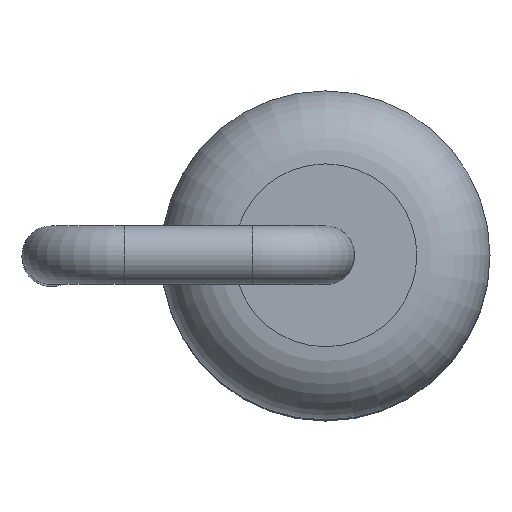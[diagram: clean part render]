
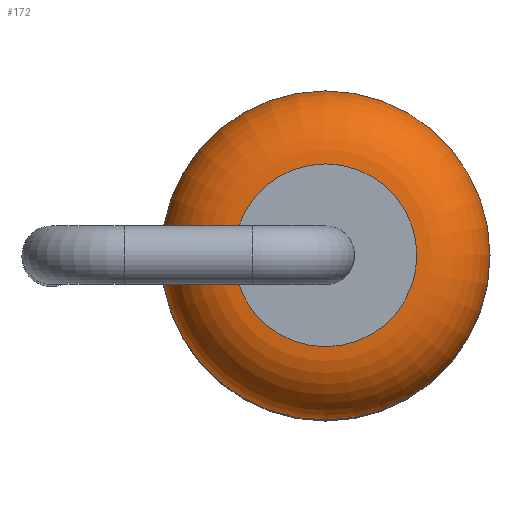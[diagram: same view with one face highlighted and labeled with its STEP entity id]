
A CAD part, top view. The second image highlights one B-rep face of the part: STEP entity #172.
In plain terms, the highlighted toroidal (fillet/blend) face has major radius 1.25 mm and minor radius 1 mm.
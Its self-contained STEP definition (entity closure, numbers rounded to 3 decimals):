
#172=ADVANCED_FACE('',(#341,#343),#345,.T.);
#341=FACE_OUTER_BOUND('',#342,.T.);
#342=EDGE_LOOP('',(#460));
#343=FACE_OUTER_BOUND('',#344,.T.);
#344=EDGE_LOOP('',(#461));
#345=TOROIDAL_SURFACE('',#346,1.25,1.);
#346=AXIS2_PLACEMENT_3D('',#347,#348,#349);
#347=CARTESIAN_POINT('',(0.,0.,-4.5));
#348=DIRECTION('',(0.,0.,-1.));
#349=DIRECTION('',(-1.,0.,0.));
#460=ORIENTED_EDGE('',*,*,#489,.F.);
#461=ORIENTED_EDGE('',*,*,#490,.T.);
#489=EDGE_CURVE('',#513,#513,#514,.T.);
#490=EDGE_CURVE('',#515,#515,#516,.T.);
#513=VERTEX_POINT('',#567);
#514=CIRCLE('',#568,1.25);
#515=VERTEX_POINT('',#572);
#516=CIRCLE('',#573,2.25);
#567=CARTESIAN_POINT('',(-1.25,0.,-5.5));
#568=AXIS2_PLACEMENT_3D('',#569,#570,#571);
#569=CARTESIAN_POINT('',(0.,0.,-5.5));
#570=DIRECTION('',(0.,0.,-1.));
#571=DIRECTION('',(-1.,0.,0.));
#572=CARTESIAN_POINT('',(-2.25,0.,-4.5));
#573=AXIS2_PLACEMENT_3D('',#574,#575,#576);
#574=CARTESIAN_POINT('',(0.,0.,-4.5));
#575=DIRECTION('',(0.,0.,-1.));
#576=DIRECTION('',(-1.,0.,0.));
